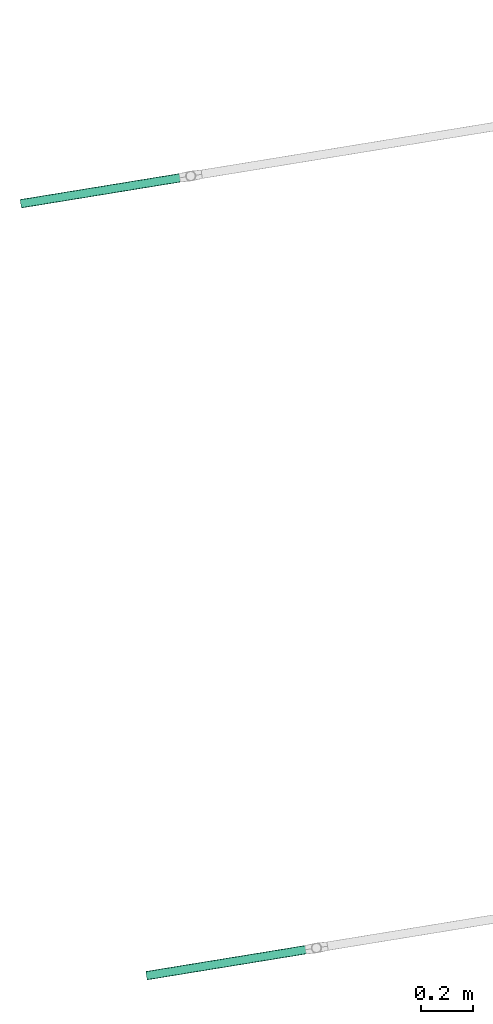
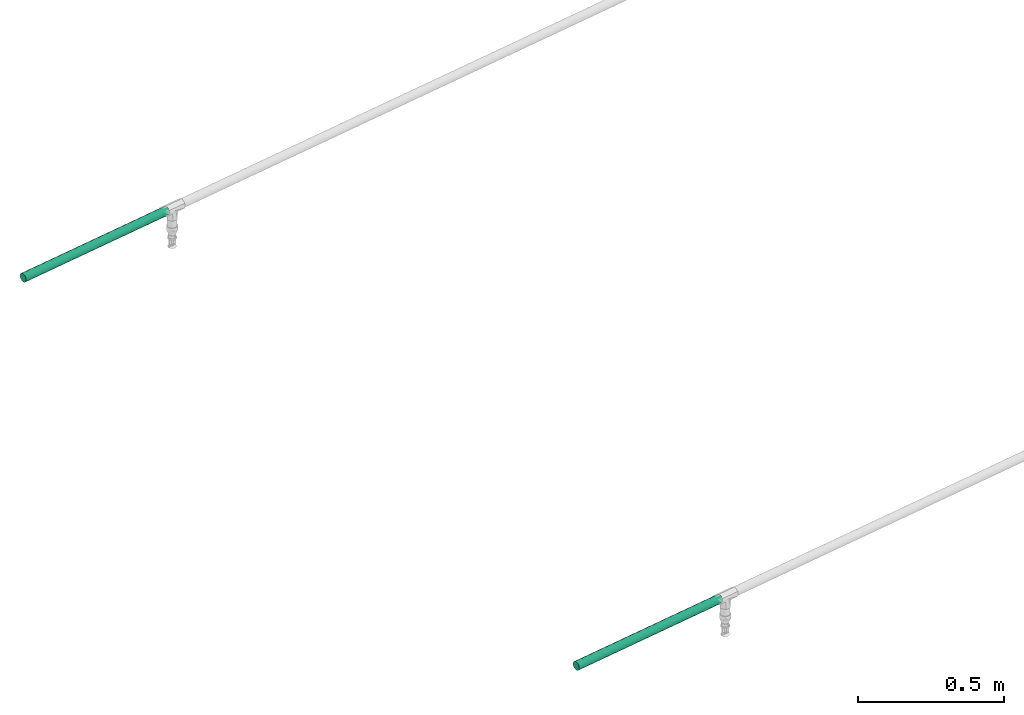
# One storey, part 3 of 3: 2 flow segments.
"""IFC2X3 building model written with IfcOpenShell, lengths in millimetres."""

from ifc_helpers import new_model, entity, si_unit, converted_unit, derived_unit, direction, frame, origin, origin_with_axes, place, context, subcontext, project, spatial, faceted_brep, material, type_object, element, save


model = new_model("IFC2X3")

# Units and contexts
plan_context = context("Plan", 3, precision=1e-05, world=origin_with_axes())
model_context = context("Model", 3, precision=0.01, world=origin(), true_north=direction((6.12323399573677e-17, 1.0)))
body_context = subcontext(model_context, "Body", "Model", "MODEL_VIEW")
ifc_project = project(units=[converted_unit("PLANEANGLEUNIT", "DEGREE", entity("IfcPositiveLengthMeasure", 0.0174532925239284), si_unit("PLANEANGLEUNIT", "RADIAN"), dimensions=[0, 0, 0, 0, 0, 0, 0]), si_unit("AREAUNIT", "SQUARE_METRE"), si_unit("LENGTHUNIT", "METRE", prefix="MILLI"), si_unit("MASSUNIT", "GRAM", prefix="KILO"), si_unit("POWERUNIT", "WATT"), si_unit("PRESSUREUNIT", "PASCAL", prefix="KILO"), si_unit("FORCEUNIT", "NEWTON", prefix="KILO"), si_unit("ELECTRICVOLTAGEUNIT", "VOLT"), si_unit("ELECTRICCURRENTUNIT", "AMPERE"), si_unit("THERMODYNAMICTEMPERATUREUNIT", "DEGREE_CELSIUS"), si_unit("TIMEUNIT", "SECOND"), si_unit("VOLUMEUNIT", "CUBIC_METRE"), derived_unit("LINEARVELOCITYUNIT", [(si_unit("LENGTHUNIT", "METRE"), 1), (si_unit("TIMEUNIT", "SECOND"), -1)]), derived_unit("VOLUMETRICFLOWRATEUNIT", [(si_unit("VOLUMEUNIT", "CUBIC_METRE"), 1), (si_unit("TIMEUNIT", "SECOND"), -1)]), derived_unit("THERMALTRANSMITTANCEUNIT", [(si_unit("POWERUNIT", "WATT"), 1), (si_unit("THERMODYNAMICTEMPERATUREUNIT", "KELVIN"), -1), (si_unit("AREAUNIT", "SQUARE_METRE"), -1)]), derived_unit("SOUNDPRESSUREUNIT", [(si_unit("PRESSUREUNIT", "PASCAL"), 1)])], contexts=[model_context, plan_context])

# Site, building, storey
site_placement = place(None, frame((-3.09682673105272e-06, 1.93776733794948e-05, 0.0), z_axis=(0.0, 0.0, 1.0), x_axis=(-0.160806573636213, 0.986985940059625, 0.0)))
site = spatial("IfcSite", under=ifc_project, at=site_placement, Name="Default", CompositionType="ELEMENT")
building_placement = place(site_placement, frame((0.0, 0.0, 0.0), z_axis=(0.0, 0.0, 1.0), x_axis=(1.0, -2.77555756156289e-17, 0.0)))
building = spatial("IfcBuilding", under=site, at=building_placement, Name="Bygning (endres i Project Information)", CompositionType="ELEMENT")
storey_placement = place(building_placement, frame((0.0, 0.0, 51360.0000000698), z_axis=(0.0, 0.0, 1.0), x_axis=(1.0, -2.77555756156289e-17, 0.0)))
storey = spatial("IfcBuildingStorey", under=building, at=storey_placement, Name="H01-Nivå D+0,36", CompositionType="ELEMENT", Elevation=51360.0000000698)

# Flow segments
ifc_material = material(Name="3320.001")
pipe_segment_type = type_object("IfcPipeSegmentType", Name="Pipe Types:Stålrør sveist og gjenget", PredefinedType="NOTDEFINED", material=ifc_material)
flow_segment_1_placement = place(storey_placement, frame((0.0, 0.0, 0.0), z_axis=(0.0, 0.0, 1.0), x_axis=(1.0, -2.77555756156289e-17, 0.0)))
element("IfcFlowSegment", 1, at=flow_segment_1_placement, inside=storey, type_object=pipe_segment_type, Name="Pipe Types:Stålrør sveist og gjenget", ObjectType="Pipe Types:Stålrør sveist og gjenget", context=body_context, shape_type="Brep", body=[
    faceted_brep([(974057.880910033, -366202.062917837, 2037.07402813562), (974057.624920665, -366202.062917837, 2040.0), (974057.624920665, -366838.27591735, 2040.0), (974057.880910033, -366838.27591735, 2037.07402813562), (974057.880910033, -366202.062917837, 2042.92597186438), (974057.880910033, -366838.27591735, 2042.92597186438), (974058.64110003, -366202.062917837, 2045.76303955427), (974058.64110003, -366838.27591735, 2045.76303955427), (974059.882392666, -366202.062917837, 2048.42500020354), (974059.882392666, -366838.27591735, 2048.42500020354), (974061.567071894, -366202.062917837, 2050.83097148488), (974061.567071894, -366838.27591735, 2050.83097148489), (974063.643949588, -366202.062917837, 2052.9078491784), (974063.643949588, -366838.27591735, 2052.9078491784), (974066.049920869, -366202.062917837, 2054.59252840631), (974066.049920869, -366838.27591735, 2054.59252840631), (974068.711881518, -366202.062917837, 2055.83382104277), (974068.711881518, -366838.27591735, 2055.83382104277), (974071.548949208, -366202.062917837, 2056.59401103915), (974071.548949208, -366838.27591735, 2056.59401103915), (974074.474921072, -366202.062917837, 2056.85000040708), (974074.474921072, -366838.27591735, 2056.85000040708), (974077.400892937, -366202.062917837, 2056.59401103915), (974077.400892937, -366838.27591735, 2056.59401103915), (974080.237960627, -366202.062917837, 2055.83382104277), (974080.237960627, -366838.27591735, 2055.83382104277), (974082.899921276, -366202.062917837, 2054.59252840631), (974082.899921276, -366838.27591735, 2054.59252840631), (974085.305892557, -366202.062917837, 2052.9078491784), (974085.305892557, -366838.27591735, 2052.9078491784), (974087.382770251, -366202.062917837, 2050.83097148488), (974087.382770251, -366838.27591735, 2050.83097148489), (974089.067449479, -366202.062917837, 2048.42500020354), (974089.067449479, -366838.27591735, 2048.42500020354), (974090.308742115, -366202.062917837, 2045.76303955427), (974090.308742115, -366838.27591735, 2045.76303955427), (974091.068932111, -366202.062917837, 2042.92597186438), (974091.068932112, -366838.27591735, 2042.92597186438), (974091.324921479, -366202.062917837, 2040.0), (974091.32492148, -366838.27591735, 2040.0), (974091.068932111, -366202.062917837, 2037.07402813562), (974091.068932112, -366838.27591735, 2037.07402813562), (974090.308742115, -366202.062917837, 2034.23696044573), (974090.308742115, -366838.27591735, 2034.23696044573), (974089.067449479, -366202.062917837, 2031.57499979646), (974089.067449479, -366838.27591735, 2031.57499979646), (974087.382770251, -366202.062917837, 2029.16902851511), (974087.382770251, -366838.27591735, 2029.16902851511), (974085.305892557, -366202.062917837, 2027.0921508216), (974085.305892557, -366838.27591735, 2027.0921508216), (974082.899921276, -366202.062917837, 2025.40747159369), (974082.899921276, -366838.27591735, 2025.40747159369), (974080.237960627, -366202.062917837, 2024.16617895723), (974080.237960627, -366838.27591735, 2024.16617895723), (974077.400892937, -366202.062917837, 2023.40598896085), (974077.400892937, -366838.27591735, 2023.40598896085), (974074.474921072, -366202.062917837, 2023.14999959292), (974074.474921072, -366838.27591735, 2023.14999959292), (974071.548949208, -366202.062917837, 2023.40598896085), (974071.548949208, -366838.27591735, 2023.40598896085), (974068.711881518, -366202.062917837, 2024.16617895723), (974068.711881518, -366838.27591735, 2024.16617895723), (974066.049920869, -366202.062917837, 2025.40747159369), (974066.049920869, -366838.27591735, 2025.40747159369), (974063.643949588, -366202.062917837, 2027.0921508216), (974063.643949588, -366838.27591735, 2027.0921508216), (974061.567071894, -366202.062917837, 2029.16902851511), (974061.567071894, -366838.27591735, 2029.16902851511), (974059.882392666, -366202.062917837, 2031.57499979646), (974059.882392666, -366838.27591735, 2031.57499979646), (974058.64110003, -366202.062917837, 2034.23696044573), (974058.64110003, -366838.27591735, 2034.23696044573)], [[[0, 1, 2, 3]], [[1, 4, 5, 2]], [[4, 6, 7, 5]], [[6, 8, 9, 7]], [[8, 10, 11, 9]], [[10, 12, 13, 11]], [[12, 14, 15, 13]], [[14, 16, 17, 15]], [[16, 18, 19, 17]], [[18, 20, 21, 19]], [[20, 22, 23, 21]], [[22, 24, 25, 23]], [[24, 26, 27, 25]], [[26, 28, 29, 27]], [[28, 30, 31, 29]], [[30, 32, 33, 31]], [[32, 34, 35, 33]], [[34, 36, 37, 35]], [[36, 38, 39, 37]], [[38, 40, 41, 39]], [[40, 42, 43, 41]], [[42, 44, 45, 43]], [[44, 46, 47, 45]], [[46, 48, 49, 47]], [[48, 50, 51, 49]], [[50, 52, 53, 51]], [[52, 54, 55, 53]], [[54, 56, 57, 55]], [[56, 58, 59, 57]], [[58, 60, 61, 59]], [[60, 62, 63, 61]], [[62, 64, 65, 63]], [[64, 66, 67, 65]], [[66, 68, 69, 67]], [[68, 70, 71, 69]], [[70, 0, 3, 71]], [[3, 2, 5, 7, 9, 11, 13, 15, 17, 19, 21, 23, 25, 27, 29, 31, 33, 35, 37, 39, 41, 43, 45, 47, 49, 51, 53, 55, 57, 59, 61, 63, 65, 67, 69, 71]], [[70, 68, 66, 64, 62, 60, 58, 56, 54, 52, 50, 48, 46, 44, 42, 40, 38, 36, 34, 32, 30, 28, 26, 24, 22, 20, 18, 16, 14, 12, 10, 8, 6, 4, 1, 0]]], orient=[[False], [False], [False], [False], [False], [False], [False], [False], [False], [False], [False], [False], [False], [False], [False], [False], [False], [False], [False], [False], [False], [False], [False], [False], [False], [False], [False], [False], [False], [False], [False], [False], [False], [False], [False], [False], [False], [False]]),
])
flow_segment_2_placement = place(storey_placement, frame((0.0, 0.0, 0.0), z_axis=(0.0, 0.0, 1.0), x_axis=(1.0, -2.77555756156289e-17, 0.0)))
element("IfcFlowSegment", 2, at=flow_segment_2_placement, inside=storey, type_object=pipe_segment_type, Name="Pipe Types:Stålrør sveist og gjenget", ObjectType="Pipe Types:Stålrør sveist og gjenget", context=body_context, shape_type="Brep", body=[
    faceted_brep([(977055.822922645, -366202.062917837, 2037.07402813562), (977055.566933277, -366202.062917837, 2040.0), (977055.566933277, -366838.27591735, 2040.0), (977055.822922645, -366838.27591735, 2037.07402813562), (977055.822922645, -366202.062917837, 2042.92597186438), (977055.822922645, -366838.27591735, 2042.92597186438), (977056.583112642, -366202.062917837, 2045.76303955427), (977056.583112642, -366838.27591735, 2045.76303955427), (977057.824405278, -366202.062917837, 2048.42500020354), (977057.824405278, -366838.27591735, 2048.42500020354), (977059.509084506, -366202.062917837, 2050.83097148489), (977059.509084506, -366838.27591735, 2050.83097148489), (977061.585962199, -366202.062917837, 2052.9078491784), (977061.585962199, -366838.27591735, 2052.9078491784), (977063.991933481, -366202.062917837, 2054.59252840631), (977063.991933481, -366838.27591735, 2054.59252840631), (977066.65389413, -366202.062917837, 2055.83382104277), (977066.65389413, -366838.27591735, 2055.83382104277), (977069.49096182, -366202.062917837, 2056.59401103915), (977069.49096182, -366838.27591735, 2056.59401103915), (977072.416933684, -366202.062917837, 2056.85000040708), (977072.416933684, -366838.27591735, 2056.85000040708), (977075.342905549, -366202.062917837, 2056.59401103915), (977075.342905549, -366838.27591735, 2056.59401103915), (977078.179973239, -366202.062917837, 2055.83382104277), (977078.179973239, -366838.27591735, 2055.83382104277), (977080.841933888, -366202.062917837, 2054.59252840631), (977080.841933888, -366838.27591735, 2054.59252840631), (977083.247905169, -366202.062917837, 2052.9078491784), (977083.247905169, -366838.27591735, 2052.9078491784), (977085.324782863, -366202.062917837, 2050.83097148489), (977085.324782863, -366838.27591735, 2050.83097148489), (977087.009462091, -366202.062917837, 2048.42500020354), (977087.009462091, -366838.27591735, 2048.42500020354), (977088.250754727, -366202.062917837, 2045.76303955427), (977088.250754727, -366838.27591735, 2045.76303955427), (977089.010944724, -366202.062917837, 2042.92597186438), (977089.010944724, -366838.27591735, 2042.92597186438), (977089.266934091, -366202.062917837, 2040.0), (977089.266934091, -366838.27591735, 2040.0), (977089.010944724, -366202.062917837, 2037.07402813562), (977089.010944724, -366838.27591735, 2037.07402813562), (977088.250754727, -366202.062917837, 2034.23696044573), (977088.250754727, -366838.27591735, 2034.23696044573), (977087.009462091, -366202.062917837, 2031.57499979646), (977087.009462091, -366838.27591735, 2031.57499979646), (977085.324782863, -366202.062917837, 2029.16902851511), (977085.324782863, -366838.27591735, 2029.16902851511), (977083.247905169, -366202.062917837, 2027.0921508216), (977083.247905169, -366838.27591735, 2027.0921508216), (977080.841933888, -366202.062917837, 2025.40747159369), (977080.841933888, -366838.27591735, 2025.40747159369), (977078.179973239, -366202.062917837, 2024.16617895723), (977078.179973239, -366838.27591735, 2024.16617895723), (977075.342905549, -366202.062917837, 2023.40598896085), (977075.342905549, -366838.27591735, 2023.40598896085), (977072.416933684, -366202.062917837, 2023.14999959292), (977072.416933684, -366838.27591735, 2023.14999959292), (977069.49096182, -366202.062917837, 2023.40598896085), (977069.49096182, -366838.27591735, 2023.40598896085), (977066.65389413, -366202.062917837, 2024.16617895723), (977066.65389413, -366838.27591735, 2024.16617895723), (977063.991933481, -366202.062917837, 2025.40747159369), (977063.991933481, -366838.27591735, 2025.40747159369), (977061.585962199, -366202.062917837, 2027.0921508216), (977061.585962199, -366838.27591735, 2027.0921508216), (977059.509084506, -366202.062917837, 2029.16902851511), (977059.509084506, -366838.27591735, 2029.16902851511), (977057.824405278, -366202.062917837, 2031.57499979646), (977057.824405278, -366838.27591735, 2031.57499979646), (977056.583112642, -366202.062917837, 2034.23696044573), (977056.583112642, -366838.27591735, 2034.23696044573)], [[[0, 1, 2, 3]], [[1, 4, 5, 2]], [[4, 6, 7, 5]], [[6, 8, 9, 7]], [[8, 10, 11, 9]], [[10, 12, 13, 11]], [[12, 14, 15, 13]], [[14, 16, 17, 15]], [[16, 18, 19, 17]], [[18, 20, 21, 19]], [[20, 22, 23, 21]], [[22, 24, 25, 23]], [[24, 26, 27, 25]], [[26, 28, 29, 27]], [[28, 30, 31, 29]], [[30, 32, 33, 31]], [[32, 34, 35, 33]], [[34, 36, 37, 35]], [[36, 38, 39, 37]], [[38, 40, 41, 39]], [[40, 42, 43, 41]], [[42, 44, 45, 43]], [[44, 46, 47, 45]], [[46, 48, 49, 47]], [[48, 50, 51, 49]], [[50, 52, 53, 51]], [[52, 54, 55, 53]], [[54, 56, 57, 55]], [[56, 58, 59, 57]], [[58, 60, 61, 59]], [[60, 62, 63, 61]], [[62, 64, 65, 63]], [[64, 66, 67, 65]], [[66, 68, 69, 67]], [[68, 70, 71, 69]], [[70, 0, 3, 71]], [[3, 2, 5, 7, 9, 11, 13, 15, 17, 19, 21, 23, 25, 27, 29, 31, 33, 35, 37, 39, 41, 43, 45, 47, 49, 51, 53, 55, 57, 59, 61, 63, 65, 67, 69, 71]], [[70, 68, 66, 64, 62, 60, 58, 56, 54, 52, 50, 48, 46, 44, 42, 40, 38, 36, 34, 32, 30, 28, 26, 24, 22, 20, 18, 16, 14, 12, 10, 8, 6, 4, 1, 0]]], orient=[[False], [False], [False], [False], [False], [False], [False], [False], [False], [False], [False], [False], [False], [False], [False], [False], [False], [False], [False], [False], [False], [False], [False], [False], [False], [False], [False], [False], [False], [False], [False], [False], [False], [False], [False], [False], [False], [False]]),
])

save(model, "model.ifc")
